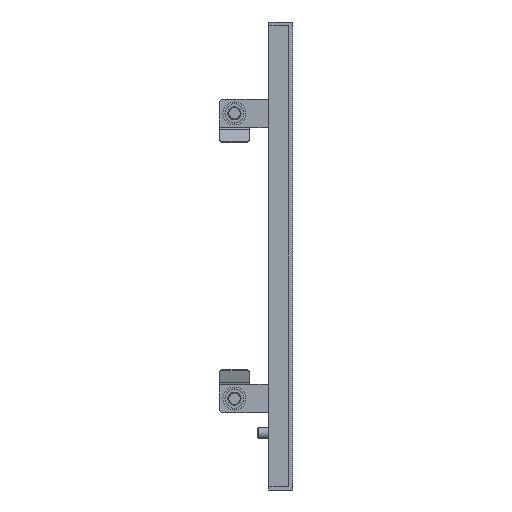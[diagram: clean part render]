
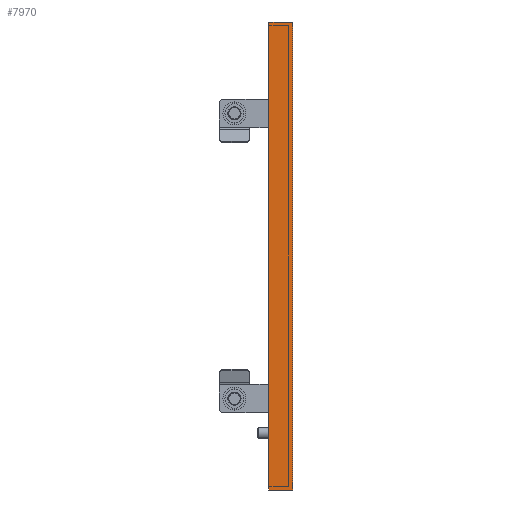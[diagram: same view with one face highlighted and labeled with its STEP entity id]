
A CAD part, front view. The second image highlights one B-rep face of the part: STEP entity #7970.
In plain terms, the highlighted planar face has unit normal (0, -1, 0).
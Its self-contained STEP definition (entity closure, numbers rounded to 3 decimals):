
#210 = EDGE_CURVE ( 'NONE', #3880, #3333, #16046, .T. ) ;
#1118 = ORIENTED_EDGE ( 'NONE', *, *, #210, .T. ) ;
#2640 = VERTEX_POINT ( 'NONE', #19113 ) ;
#2667 = DIRECTION ( 'NONE',  ( 1., 0., 0. ) ) ;
#3146 = VERTEX_POINT ( 'NONE', #23688 ) ;
#3333 = VERTEX_POINT ( 'NONE', #18304 ) ;
#3513 = CARTESIAN_POINT ( 'NONE',  ( 0., -397.5, 0. ) ) ;
#3880 = VERTEX_POINT ( 'NONE', #22881 ) ;
#4851 = DIRECTION ( 'NONE',  ( 0., 1., 0. ) ) ;
#6209 = DIRECTION ( 'NONE',  ( -1., 0., 0. ) ) ;
#7563 = VECTOR ( 'NONE', #6209, 1000. ) ;
#7623 = LINE ( 'NONE', #3513, #23260 ) ;
#7671 = ORIENTED_EDGE ( 'NONE', *, *, #9645, .T. ) ;
#7970 = ADVANCED_FACE ( 'NONE', ( #8952 ), #18786, .F. ) ;
#8070 = EDGE_LOOP ( 'NONE', ( #22367, #7671, #1118, #23788 ) ) ;
#8952 = FACE_OUTER_BOUND ( 'NONE', #8070, .T. ) ;
#9645 = EDGE_CURVE ( 'NONE', #3146, #3880, #7623, .T. ) ;
#11090 = DIRECTION ( 'NONE',  ( 0., 0., 1. ) ) ;
#12300 = LINE ( 'NONE', #23671, #16280 ) ;
#14001 = CARTESIAN_POINT ( 'NONE',  ( 2.928, -397.5, 123. ) ) ;
#14968 = VECTOR ( 'NONE', #25157, 1000. ) ;
#16046 = LINE ( 'NONE', #14001, #7563 ) ;
#16280 = VECTOR ( 'NONE', #20205, 1000. ) ;
#16993 = AXIS2_PLACEMENT_3D ( 'NONE', #20184, #4851, #2667 ) ;
#17614 = LINE ( 'NONE', #25288, #14968 ) ;
#18304 = CARTESIAN_POINT ( 'NONE',  ( -12.5, -397.5, 123. ) ) ;
#18786 = PLANE ( 'NONE',  #16993 ) ;
#19113 = CARTESIAN_POINT ( 'NONE',  ( -12.5, -397.5, -123. ) ) ;
#20184 = CARTESIAN_POINT ( 'NONE',  ( -2., -397.5, 0. ) ) ;
#20205 = DIRECTION ( 'NONE',  ( 0., 0., -1. ) ) ;
#22305 = EDGE_CURVE ( 'NONE', #3146, #2640, #17614, .T. ) ;
#22367 = ORIENTED_EDGE ( 'NONE', *, *, #22305, .F. ) ;
#22881 = CARTESIAN_POINT ( 'NONE',  ( 0., -397.5, 123. ) ) ;
#23260 = VECTOR ( 'NONE', #11090, 1000. ) ;
#23671 = CARTESIAN_POINT ( 'NONE',  ( -12.5, -397.5, 0. ) ) ;
#23688 = CARTESIAN_POINT ( 'NONE',  ( 0., -397.5, -123. ) ) ;
#23788 = ORIENTED_EDGE ( 'NONE', *, *, #23843, .T. ) ;
#23843 = EDGE_CURVE ( 'NONE', #3333, #2640, #12300, .T. ) ;
#25157 = DIRECTION ( 'NONE',  ( -1., 0., 0. ) ) ;
#25288 = CARTESIAN_POINT ( 'NONE',  ( 2.928, -397.5, -123. ) ) ;
